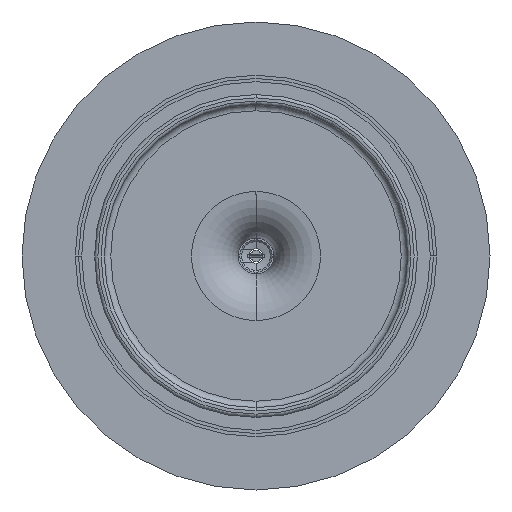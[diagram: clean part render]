
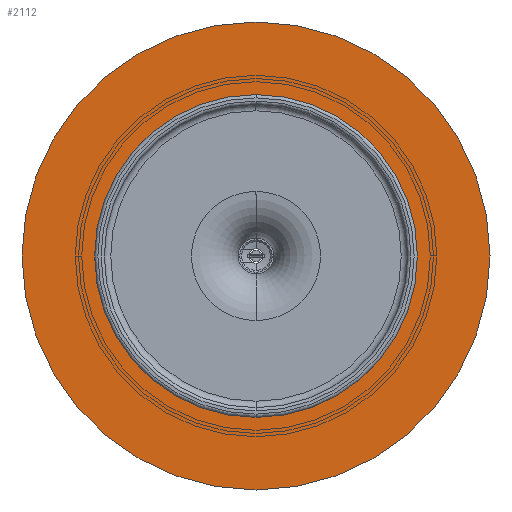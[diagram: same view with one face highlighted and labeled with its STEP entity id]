
A CAD part, front view. The second image highlights one B-rep face of the part: STEP entity #2112.
In plain terms, the highlighted planar face has unit normal (0, -1, 0).
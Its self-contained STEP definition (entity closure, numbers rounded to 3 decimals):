
#8 = ORIENTED_EDGE ( 'NONE', *, *, #1817, .T. ) ;
#75 = ORIENTED_EDGE ( 'NONE', *, *, #5045, .T. ) ;
#255 = DIRECTION ( 'NONE',  ( 0., 1., 0. ) ) ;
#298 = AXIS2_PLACEMENT_3D ( 'NONE', #3184, #1969, #3778 ) ;
#314 = EDGE_LOOP ( 'NONE', ( #75, #4949, #3790, #8 ) ) ;
#344 = DIRECTION ( 'NONE',  ( 0., 0., 1. ) ) ;
#519 = CARTESIAN_POINT ( 'NONE',  ( -3.033, 0., -4.1 ) ) ;
#534 = CARTESIAN_POINT ( 'NONE',  ( 0., 0., 0. ) ) ;
#580 = CIRCLE ( 'NONE', #1812, 72.5 ) ;
#626 = DIRECTION ( 'NONE',  ( 0., 0., 1. ) ) ;
#715 = CARTESIAN_POINT ( 'NONE',  ( 0., 0., -72.5 ) ) ;
#721 = CARTESIAN_POINT ( 'NONE',  ( 0., 0., 0. ) ) ;
#722 = AXIS2_PLACEMENT_3D ( 'NONE', #4385, #2167, #344 ) ;
#762 = LINE ( 'NONE', #1207, #2639 ) ;
#859 = AXIS2_PLACEMENT_3D ( 'NONE', #721, #3024, #4817 ) ;
#936 = LINE ( 'NONE', #519, #1286 ) ;
#1075 = VERTEX_POINT ( 'NONE', #715 ) ;
#1207 = CARTESIAN_POINT ( 'NONE',  ( -3.033, 0., 4.1 ) ) ;
#1286 = VECTOR ( 'NONE', #2322, 1000. ) ;
#1330 = CIRCLE ( 'NONE', #859, 5.1 ) ;
#1354 = VERTEX_POINT ( 'NONE', #4595 ) ;
#1397 = CARTESIAN_POINT ( 'NONE',  ( 3.033, 0., -4.1 ) ) ;
#1423 = EDGE_LOOP ( 'NONE', ( #4794, #2147 ) ) ;
#1447 = DIRECTION ( 'NONE',  ( 0., 0., 1. ) ) ;
#1731 = FACE_BOUND ( 'NONE', #314, .T. ) ;
#1812 = AXIS2_PLACEMENT_3D ( 'NONE', #534, #4132, #626 ) ;
#1817 = EDGE_CURVE ( 'NONE', #3308, #1354, #936, .T. ) ;
#1856 = CARTESIAN_POINT ( 'NONE',  ( 3.033, 0., 4.1 ) ) ;
#1969 = DIRECTION ( 'NONE',  ( 0., 1., 0. ) ) ;
#2112 = ADVANCED_FACE ( 'NONE', ( #2637, #1731 ), #4351, .F. ) ;
#2147 = ORIENTED_EDGE ( 'NONE', *, *, #5793, .F. ) ;
#2167 = DIRECTION ( 'NONE',  ( 0., 1., 0. ) ) ;
#2225 = DIRECTION ( 'NONE',  ( 1., 0., 0. ) ) ;
#2322 = DIRECTION ( 'NONE',  ( -1., 0., 0. ) ) ;
#2494 = CARTESIAN_POINT ( 'NONE',  ( 0., 0., 0. ) ) ;
#2637 = FACE_OUTER_BOUND ( 'NONE', #1423, .T. ) ;
#2639 = VECTOR ( 'NONE', #2225, 1000. ) ;
#2758 = CARTESIAN_POINT ( 'NONE',  ( 0., 0., 72.5 ) ) ;
#2844 = CIRCLE ( 'NONE', #298, 72.5 ) ;
#3024 = DIRECTION ( 'NONE',  ( 0., 1., 0. ) ) ;
#3184 = CARTESIAN_POINT ( 'NONE',  ( 0., 0., 0. ) ) ;
#3306 = EDGE_CURVE ( 'NONE', #5150, #4308, #762, .T. ) ;
#3308 = VERTEX_POINT ( 'NONE', #1397 ) ;
#3778 = DIRECTION ( 'NONE',  ( 0., 0., 1. ) ) ;
#3790 = ORIENTED_EDGE ( 'NONE', *, *, #5510, .T. ) ;
#3852 = VERTEX_POINT ( 'NONE', #2758 ) ;
#3861 = CARTESIAN_POINT ( 'NONE',  ( -3.033, 0., 4.1 ) ) ;
#4132 = DIRECTION ( 'NONE',  ( 0., 1., 0. ) ) ;
#4254 = CIRCLE ( 'NONE', #5007, 5.1 ) ;
#4308 = VERTEX_POINT ( 'NONE', #1856 ) ;
#4351 = PLANE ( 'NONE',  #722 ) ;
#4385 = CARTESIAN_POINT ( 'NONE',  ( 0., 0., 0. ) ) ;
#4595 = CARTESIAN_POINT ( 'NONE',  ( -3.033, 0., -4.1 ) ) ;
#4794 = ORIENTED_EDGE ( 'NONE', *, *, #4811, .F. ) ;
#4811 = EDGE_CURVE ( 'NONE', #1075, #3852, #580, .T. ) ;
#4817 = DIRECTION ( 'NONE',  ( 0., 0., 1. ) ) ;
#4949 = ORIENTED_EDGE ( 'NONE', *, *, #3306, .T. ) ;
#5007 = AXIS2_PLACEMENT_3D ( 'NONE', #2494, #255, #1447 ) ;
#5045 = EDGE_CURVE ( 'NONE', #1354, #5150, #4254, .T. ) ;
#5150 = VERTEX_POINT ( 'NONE', #3861 ) ;
#5510 = EDGE_CURVE ( 'NONE', #4308, #3308, #1330, .T. ) ;
#5793 = EDGE_CURVE ( 'NONE', #3852, #1075, #2844, .T. ) ;
